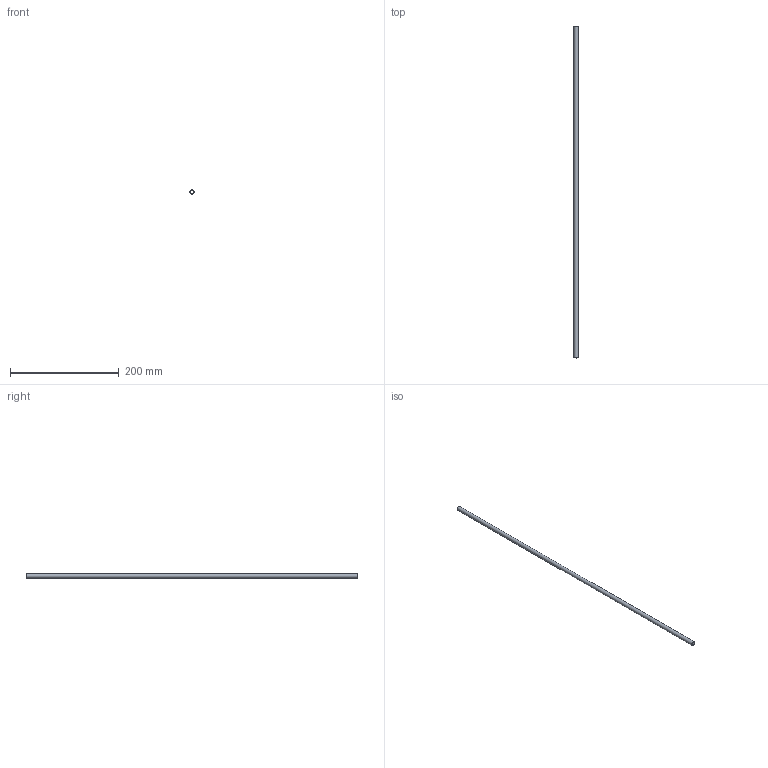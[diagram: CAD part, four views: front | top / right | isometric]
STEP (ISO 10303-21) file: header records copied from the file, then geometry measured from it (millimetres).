
FILE_DESCRIPTION(/* description */ (''),/* implementation_level */ '2;1');
FILE_NAME(/* name */ 'C:/Users/drich/Desktop/312T-24 v1.step',/* time_stamp */ '2019-12-27T17:30:27-06:00',/* author */ (''),/* organization */ (''),/* preprocessor_version */ 'ST-DEVELOPER v18',/* originating_system */ 'Autodesk Translation Framework v8.12.0.6',/* authorisation */ '');
FILE_SCHEMA (('AUTOMOTIVE_DESIGN { 1 0 10303 214 3 1 1 }'));
Length unit declared in the file: inch
Products named in the file (1): 312T-24
Bounding box: 7.82 x 609.6 x 7.82 mm (x, y, z)
Volume: 15640.9 mm3; surface area: 25231.7 mm2
Topology: 1 solids, 1 shells, 6 faces, 14 edges, 10 vertices
Faces by surface type: cone 2, cylinder 2, plane 2
Full cylindrical faces by diameter (mm): 5.334 x1, 7.818 x1
Entity records: 230 total; most frequent: DIRECTION 38, CARTESIAN_POINT 31, ORIENTED_EDGE 28, AXIS2_PLACEMENT_3D 17, EDGE_CURVE 14, CIRCLE 10, VERTEX_POINT 10, EDGE_LOOP 8
